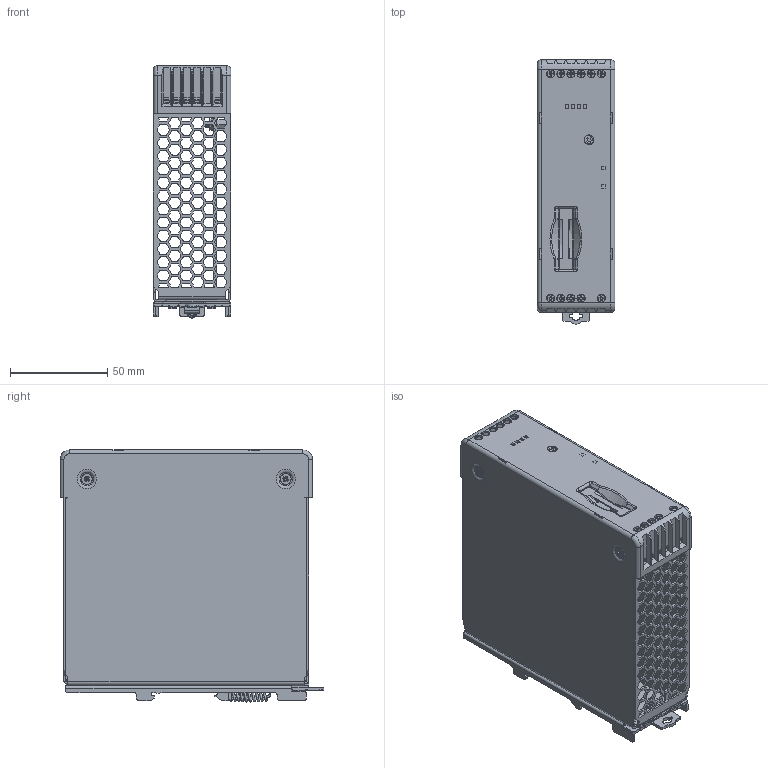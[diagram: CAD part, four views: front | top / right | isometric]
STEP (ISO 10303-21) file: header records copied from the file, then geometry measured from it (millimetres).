
FILE_DESCRIPTION( ( 'Unknown' ), '1' );
FILE_NAME( 'H:/Disegni/Lavori in sospeso/00 spedire prox/78 varie/78_1D catalogo - Copia.stp', 'Unknown', ( 'Unknown' ), ( 'Unknown' ), 'PSStep 15.0.49', 'Unknown', ' ' );
FILE_SCHEMA( ( 'AUTOMOTIVE_DESIGN { 1 0 10303 214 1 1 1 1 }' ) );
Length unit declared in the file: millimetre
Products named in the file (97): 178570; 178574; 1707171; 178282; 178721; 178215; 119101; 119150; 119526; 178535; 162537; CS 78_1D AUS; 178550; CS 78_1D
Bounding box: 40 x 135.88 x 129.92 mm (x, y, z)
Volume: 5324.4 mm3; surface area: 117615.1 mm2
Topology: 2 solids, 3594 shells, 3819 faces, 20901 edges, 20605 vertices
Faces by surface type: plane 2353, cylinder 1265, cone 103, torus 55, bspline 33, sphere 8, extrusion 2
Full cylindrical faces by diameter (mm): 2.83 x2, 3 x9, 4.2 x11, 4.6 x11, 5 x4, 5.5 x5
Entity records: 247012 total; most frequent: CARTESIAN_POINT 64584, DIRECTION 29509, ORIENTED_EDGE 21418, EDGE_CURVE 20774, VERTEX_POINT 20555, VECTOR 14535, LINE 14533, AXIS2_PLACEMENT_3D 7487
